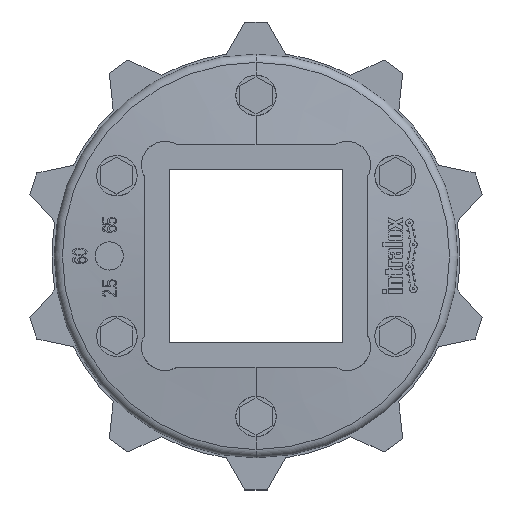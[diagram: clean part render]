
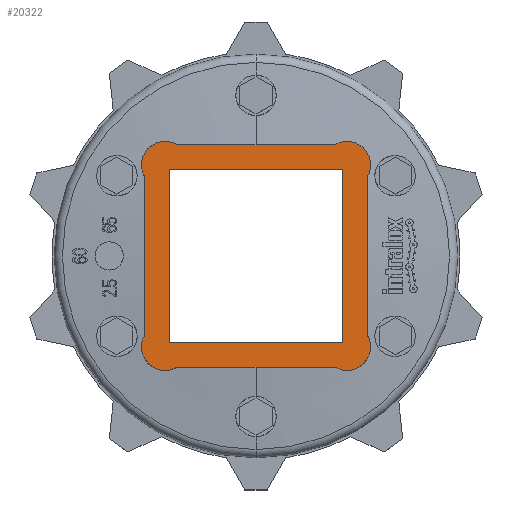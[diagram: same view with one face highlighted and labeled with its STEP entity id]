
A CAD part, top view. The second image highlights one B-rep face of the part: STEP entity #20322.
In plain terms, the highlighted planar face has unit normal (0, 0, 1) as drawn and (0, 1, 0) by its records, which use the part's own axes.
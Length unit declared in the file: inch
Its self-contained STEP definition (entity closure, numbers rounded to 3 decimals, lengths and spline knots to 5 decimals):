
#9654=DIRECTION('',(0.,0.,1.));
#9655=VECTOR('',#9654,2.16129);
#9656=CARTESIAN_POINT('',(-1.5175,0.67,-1.08065));
#9657=LINE('',#9656,#9655);
#9658=CARTESIAN_POINT('',(-1.24,0.67,-1.24));
#9659=DIRECTION('',(0.,1.,0.));
#9660=DIRECTION('',(0.498,0.,-0.867));
#9661=AXIS2_PLACEMENT_3D('',#9658,#9659,#9660);
#9663=DIRECTION('',(-1.,0.,0.));
#9664=VECTOR('',#9663,2.16129);
#9665=CARTESIAN_POINT('',(1.08065,0.67,-1.5175));
#9666=LINE('',#9665,#9664);
#9667=CARTESIAN_POINT('',(1.24,0.67,-1.24));
#9668=DIRECTION('',(0.,1.,0.));
#9669=DIRECTION('',(0.867,0.,0.498));
#9670=AXIS2_PLACEMENT_3D('',#9667,#9668,#9669);
#9672=DIRECTION('',(0.,0.,-1.));
#9673=VECTOR('',#9672,2.16129);
#9674=CARTESIAN_POINT('',(1.5175,0.67,1.08065));
#9675=LINE('',#9674,#9673);
#9676=CARTESIAN_POINT('',(1.24,0.67,1.24));
#9677=DIRECTION('',(0.,1.,0.));
#9678=DIRECTION('',(-0.498,0.,0.867));
#9679=AXIS2_PLACEMENT_3D('',#9676,#9677,#9678);
#9681=DIRECTION('',(1.,0.,0.));
#9682=VECTOR('',#9681,2.16129);
#9683=CARTESIAN_POINT('',(-1.08065,0.67,1.5175));
#9684=LINE('',#9683,#9682);
#9685=CARTESIAN_POINT('',(-1.24,0.67,1.24));
#9686=DIRECTION('',(0.,1.,0.));
#9687=DIRECTION('',(-0.867,0.,-0.498));
#9688=AXIS2_PLACEMENT_3D('',#9685,#9686,#9687);
#9690=DIRECTION('',(-1.,0.,0.));
#9691=VECTOR('',#9690,2.362);
#9692=CARTESIAN_POINT('',(1.181,0.67,-1.181));
#9693=LINE('',#9692,#9691);
#9694=DIRECTION('',(0.,0.,1.));
#9695=VECTOR('',#9694,2.362);
#9696=CARTESIAN_POINT('',(-1.181,0.67,-1.181));
#9697=LINE('',#9696,#9695);
#9698=DIRECTION('',(1.,0.,0.));
#9699=VECTOR('',#9698,2.362);
#9700=CARTESIAN_POINT('',(-1.181,0.67,1.181));
#9701=LINE('',#9700,#9699);
#9702=DIRECTION('',(0.,0.,-1.));
#9703=VECTOR('',#9702,2.362);
#9704=CARTESIAN_POINT('',(1.181,0.67,1.181));
#9705=LINE('',#9704,#9703);
#11424=CARTESIAN_POINT('',(-1.5175,0.67,-1.08065));
#11425=CARTESIAN_POINT('',(-1.5175,0.67,1.08065));
#11426=VERTEX_POINT('',#11424);
#11427=VERTEX_POINT('',#11425);
#11428=CARTESIAN_POINT('',(-1.08065,0.67,1.5175));
#11429=VERTEX_POINT('',#11428);
#11430=CARTESIAN_POINT('',(1.08065,0.67,1.5175));
#11431=VERTEX_POINT('',#11430);
#11432=CARTESIAN_POINT('',(1.5175,0.67,1.08065));
#11433=VERTEX_POINT('',#11432);
#11434=CARTESIAN_POINT('',(1.5175,0.67,-1.08065));
#11435=VERTEX_POINT('',#11434);
#11436=CARTESIAN_POINT('',(1.08065,0.67,-1.5175));
#11437=VERTEX_POINT('',#11436);
#11438=CARTESIAN_POINT('',(-1.08065,0.67,-1.5175));
#11439=VERTEX_POINT('',#11438);
#12514=CARTESIAN_POINT('',(1.181,0.67,-1.181));
#12515=CARTESIAN_POINT('',(-1.181,0.67,-1.181));
#12516=VERTEX_POINT('',#12514);
#12517=VERTEX_POINT('',#12515);
#12518=CARTESIAN_POINT('',(-1.181,0.67,1.181));
#12519=VERTEX_POINT('',#12518);
#12520=CARTESIAN_POINT('',(1.181,0.67,1.181));
#12521=VERTEX_POINT('',#12520);
#20297=CARTESIAN_POINT('',(0.,0.67,0.));
#20298=DIRECTION('',(0.,1.,0.));
#20299=DIRECTION('',(-1.,0.,0.));
#20300=AXIS2_PLACEMENT_3D('',#20297,#20298,#20299);
#20301=PLANE('',#20300);
#20302=ORIENTED_EDGE('',*,*,#20191,.F.);
#20303=ORIENTED_EDGE('',*,*,#20207,.F.);
#20304=ORIENTED_EDGE('',*,*,#20221,.F.);
#20305=ORIENTED_EDGE('',*,*,#20235,.F.);
#20306=ORIENTED_EDGE('',*,*,#20250,.F.);
#20307=ORIENTED_EDGE('',*,*,#20264,.F.);
#20308=ORIENTED_EDGE('',*,*,#20278,.F.);
#20309=ORIENTED_EDGE('',*,*,#20291,.F.);
#20310=EDGE_LOOP('',(#20302,#20303,#20304,#20305,#20306,#20307,#20308,#20309));
#20311=FACE_OUTER_BOUND('',#20310,.F.);
#20313=ORIENTED_EDGE('',*,*,#20312,.T.);
#20315=ORIENTED_EDGE('',*,*,#20314,.T.);
#20317=ORIENTED_EDGE('',*,*,#20316,.T.);
#20319=ORIENTED_EDGE('',*,*,#20318,.T.);
#20320=EDGE_LOOP('',(#20313,#20315,#20317,#20319));
#20321=FACE_BOUND('',#20320,.F.);
#20322=ADVANCED_FACE('',(#20311,#20321),#20301,.T.);
#9662=CIRCLE('',#9661,0.32);
#9671=CIRCLE('',#9670,0.32);
#9680=CIRCLE('',#9679,0.32);
#9689=CIRCLE('',#9688,0.32);
#20191=EDGE_CURVE('',#11426,#11427,#9657,.T.);
#20207=EDGE_CURVE('',#11439,#11426,#9662,.T.);
#20221=EDGE_CURVE('',#11437,#11439,#9666,.T.);
#20235=EDGE_CURVE('',#11435,#11437,#9671,.T.);
#20250=EDGE_CURVE('',#11433,#11435,#9675,.T.);
#20264=EDGE_CURVE('',#11431,#11433,#9680,.T.);
#20278=EDGE_CURVE('',#11429,#11431,#9684,.T.);
#20291=EDGE_CURVE('',#11427,#11429,#9689,.T.);
#20312=EDGE_CURVE('',#12516,#12517,#9693,.T.);
#20314=EDGE_CURVE('',#12517,#12519,#9697,.T.);
#20316=EDGE_CURVE('',#12519,#12521,#9701,.T.);
#20318=EDGE_CURVE('',#12521,#12516,#9705,.T.);
